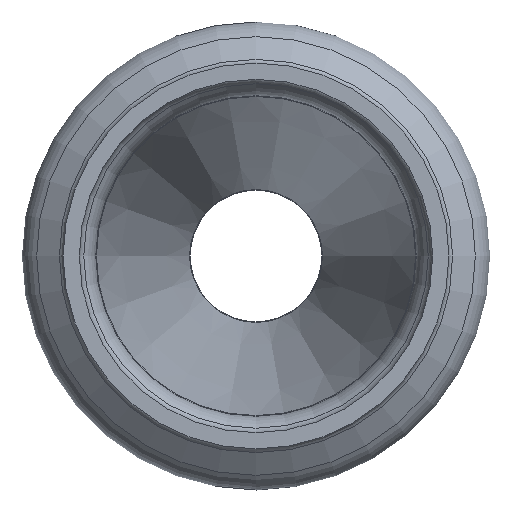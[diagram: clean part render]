
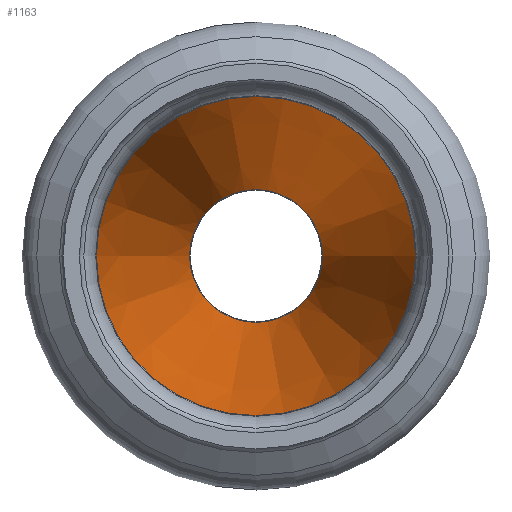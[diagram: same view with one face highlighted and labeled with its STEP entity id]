
A CAD part, left-side view. The second image highlights one B-rep face of the part: STEP entity #1163.
In plain terms, the highlighted conical face has half-angle 13.177 degrees and reference radius 19.292 mm.
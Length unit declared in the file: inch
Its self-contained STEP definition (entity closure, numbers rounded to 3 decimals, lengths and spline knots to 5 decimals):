
#76=LINE('',#2154,#98);
#98=VECTOR('',#1741,0.75953);
#112=CONICAL_SURFACE('',#1349,0.75953,0.23);
#149=FACE_OUTER_BOUND('',#198,.T.);
#198=EDGE_LOOP('',(#951,#952,#953,#954,#955,#956,#957,#958));
#327=CIRCLE('',#1345,0.44629);
#328=CIRCLE('',#1346,0.44629);
#329=CIRCLE('',#1347,0.44629);
#331=CIRCLE('',#1350,1.07276);
#332=CIRCLE('',#1351,1.07276);
#333=CIRCLE('',#1352,1.07276);
#470=VERTEX_POINT('',#2145);
#471=VERTEX_POINT('',#2146);
#472=VERTEX_POINT('',#2148);
#473=VERTEX_POINT('',#2153);
#474=VERTEX_POINT('',#2155);
#475=VERTEX_POINT('',#2157);
#638=EDGE_CURVE('',#470,#471,#327,.T.);
#639=EDGE_CURVE('',#472,#470,#328,.T.);
#640=EDGE_CURVE('',#471,#472,#329,.T.);
#642=EDGE_CURVE('',#472,#473,#76,.T.);
#643=EDGE_CURVE('',#474,#473,#331,.T.);
#644=EDGE_CURVE('',#475,#474,#332,.T.);
#645=EDGE_CURVE('',#473,#475,#333,.T.);
#951=ORIENTED_EDGE('',*,*,#638,.T.);
#952=ORIENTED_EDGE('',*,*,#640,.T.);
#953=ORIENTED_EDGE('',*,*,#642,.T.);
#954=ORIENTED_EDGE('',*,*,#643,.F.);
#955=ORIENTED_EDGE('',*,*,#644,.F.);
#956=ORIENTED_EDGE('',*,*,#645,.F.);
#957=ORIENTED_EDGE('',*,*,#642,.F.);
#958=ORIENTED_EDGE('',*,*,#639,.T.);
#1163=ADVANCED_FACE('',(#149),#112,.F.);
#1345=AXIS2_PLACEMENT_3D('',#2147,#1731,#1732);
#1346=AXIS2_PLACEMENT_3D('',#2149,#1733,#1734);
#1347=AXIS2_PLACEMENT_3D('',#2150,#1735,#1736);
#1349=AXIS2_PLACEMENT_3D('',#2152,#1739,#1740);
#1350=AXIS2_PLACEMENT_3D('',#2156,#1742,#1743);
#1351=AXIS2_PLACEMENT_3D('',#2158,#1744,#1745);
#1352=AXIS2_PLACEMENT_3D('',#2159,#1746,#1747);
#1731=DIRECTION('center_axis',(1.,0.,0.));
#1732=DIRECTION('ref_axis',(0.,1.,0.));
#1733=DIRECTION('center_axis',(1.,0.,0.));
#1734=DIRECTION('ref_axis',(0.,1.,0.));
#1735=DIRECTION('center_axis',(1.,0.,0.));
#1736=DIRECTION('ref_axis',(0.,1.,0.));
#1739=DIRECTION('center_axis',(-1.,0.,0.));
#1740=DIRECTION('ref_axis',(0.,1.,0.));
#1741=DIRECTION('',(-0.974,-0.228,0.));
#1742=DIRECTION('center_axis',(1.,0.,0.));
#1743=DIRECTION('ref_axis',(0.,1.,0.));
#1744=DIRECTION('center_axis',(1.,0.,0.));
#1745=DIRECTION('ref_axis',(0.,1.,0.));
#1746=DIRECTION('center_axis',(1.,0.,0.));
#1747=DIRECTION('ref_axis',(0.,1.,0.));
#2145=CARTESIAN_POINT('',(1.36913,0.44629,0.));
#2146=CARTESIAN_POINT('',(1.36913,0.,0.44629));
#2147=CARTESIAN_POINT('Origin',(1.36913,0.,0.));
#2148=CARTESIAN_POINT('',(1.36913,-0.44629,0.));
#2149=CARTESIAN_POINT('Origin',(1.36913,0.,0.));
#2150=CARTESIAN_POINT('Origin',(1.36913,0.,0.));
#2152=CARTESIAN_POINT('Origin',(0.03123,0.,
0.));
#2153=CARTESIAN_POINT('',(-1.30666,-1.07276,0.));
#2154=CARTESIAN_POINT('',(0.03123,-0.75953,0.));
#2155=CARTESIAN_POINT('',(-1.30666,0.,1.07276));
#2156=CARTESIAN_POINT('Origin',(-1.30666,0.,0.));
#2157=CARTESIAN_POINT('',(-1.30666,1.07276,0.));
#2158=CARTESIAN_POINT('Origin',(-1.30666,0.,0.));
#2159=CARTESIAN_POINT('Origin',(-1.30666,0.,0.));
